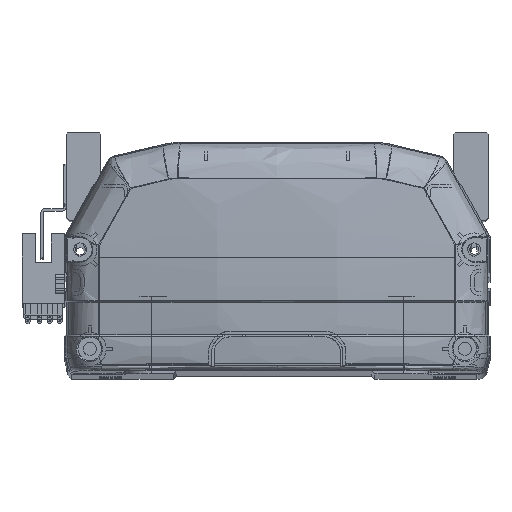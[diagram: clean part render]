
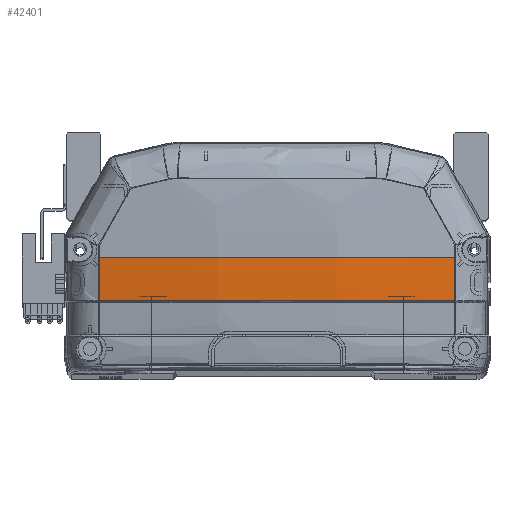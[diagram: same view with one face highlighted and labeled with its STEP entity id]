
A CAD part, top view. The second image highlights one B-rep face of the part: STEP entity #42401.
In plain terms, the highlighted free-form (B-spline) face has degree [3, 3] with [4, 4] control points.
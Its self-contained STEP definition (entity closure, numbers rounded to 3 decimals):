
#203 = CARTESIAN_POINT ( 'NONE',  ( -57.335, 22.148, -4.7 ) ) ;
#779 = CARTESIAN_POINT ( 'NONE',  ( -57.335, 31.38, -5.042 ) ) ;
#1471 = CARTESIAN_POINT ( 'NONE',  ( 38.071, 22.225, -7.566 ) ) ;
#3622 = CARTESIAN_POINT ( 'NONE',  ( 56.661, 22.225, -4.818 ) ) ;
#4745 = DIRECTION ( 'NONE',  ( -1., 0., 0. ) ) ;
#4997 = CIRCLE ( 'NONE', #26566, 6395.966 ) ;
#5168 = EDGE_CURVE ( 'NONE', #48721, #24520, #45884, .T. ) ;
#5310 = CARTESIAN_POINT ( 'NONE',  ( 57.335, 22.148, -4.7 ) ) ;
#6177 = CARTESIAN_POINT ( 'NONE',  ( 19.121, 22.225, -9.064 ) ) ;
#6620 = ORIENTED_EDGE ( 'NONE', *, *, #37466, .F. ) ;
#6955 = CARTESIAN_POINT ( 'NONE',  ( -56.661, 22.225, -4.818 ) ) ;
#8122 = CARTESIAN_POINT ( 'NONE',  ( 56.647, 35.969, -5.158 ) ) ;
#9629 = CARTESIAN_POINT ( 'NONE',  ( -57.335, 36., -5.042 ) ) ;
#10356 = ORIENTED_EDGE ( 'NONE', *, *, #32072, .F. ) ;
#10504 = CARTESIAN_POINT ( 'NONE',  ( 8.363, 22.225, -9.48 ) ) ;
#11513 = EDGE_CURVE ( 'NONE', #19233, #48721, #26948, .T. ) ;
#12133 = EDGE_CURVE ( 'NONE', #21516, #24520, #57272, .T. ) ;
#13234 = ORIENTED_EDGE ( 'NONE', *, *, #11513, .F. ) ;
#13571 = DIRECTION ( 'NONE',  ( 0., 0., -1. ) ) ;
#15911 = FACE_OUTER_BOUND ( 'NONE', #46724, .T. ) ;
#17331 = VERTEX_POINT ( 'NONE', #38288 ) ;
#18062 = CARTESIAN_POINT ( 'NONE',  ( 19.295, 31.274, -11.535 ) ) ;
#18436 = CARTESIAN_POINT ( 'NONE',  ( 19.295, 26.549, -11.419 ) ) ;
#18814 = CARTESIAN_POINT ( 'NONE',  ( 57.335, 31.38, -5.042 ) ) ;
#19233 = VERTEX_POINT ( 'NONE', #30654 ) ;
#20864 =( BOUNDED_SURFACE ( )  B_SPLINE_SURFACE ( 3, 3, ( 
 ( #5310, #49631, #18814, #50195 ),
 ( #44979, #18436, #18062, #49823 ),
 ( #45525, #49439, #36519, #22635 ),
 ( #203, #40673, #779, #9629 ) ),
 .UNSPECIFIED., .F., .F., .F. ) 
 B_SPLINE_SURFACE_WITH_KNOTS ( ( 4, 4 ),
 ( 4, 4 ),
 ( 0., 1. ),
 ( 0., 1. ),
 .UNSPECIFIED. ) 
 GEOMETRIC_REPRESENTATION_ITEM ( )  RATIONAL_B_SPLINE_SURFACE ( (
 ( 1., 1., 1., 1.),
 ( 0.99, 0.99, 0.99, 0.99),
 ( 0.99, 0.99, 0.99, 0.99),
 ( 1., 1., 1., 1.) ) ) 
 REPRESENTATION_ITEM ( '' )  SURFACE ( )  );
#21516 = VERTEX_POINT ( 'NONE', #55074 ) ;
#22635 = CARTESIAN_POINT ( 'NONE',  ( -19.295, 36., -11.535 ) ) ;
#23881 = CARTESIAN_POINT ( 'NONE',  ( 47.432, 22.225, -6.377 ) ) ;
#24520 = VERTEX_POINT ( 'NONE', #31483 ) ;
#24658 = CARTESIAN_POINT ( 'NONE',  ( 11.954, 22.225, -9.367 ) ) ;
#26409 = CARTESIAN_POINT ( 'NONE',  ( 56.647, 31.387, -5.158 ) ) ;
#26566 = AXIS2_PLACEMENT_3D ( 'NONE', #40282, #13571, #4745 ) ;
#26948 = CIRCLE ( 'NONE', #52102, 340.733 ) ;
#29152 = CARTESIAN_POINT ( 'NONE',  ( 4.761, 22.225, -9.537 ) ) ;
#29696 = DIRECTION ( 'NONE',  ( 0., 0., -1. ) ) ;
#29806 = ORIENTED_EDGE ( 'NONE', *, *, #5168, .F. ) ;
#30363 = CARTESIAN_POINT ( 'NONE',  ( -56.661, 22.225, -4.818 ) ) ;
#30654 = CARTESIAN_POINT ( 'NONE',  ( 56.647, 36., -5.158 ) ) ;
#31483 = CARTESIAN_POINT ( 'NONE',  ( -56.661, 22.225, -4.818 ) ) ;
#32072 = EDGE_CURVE ( 'NONE', #21516, #17331, #56709, .T. ) ;
#33272 = CARTESIAN_POINT ( 'NONE',  ( 56.661, 22.225, -4.818 ) ) ;
#34384 = CARTESIAN_POINT ( 'NONE',  ( 0., 36., 330.833 ) ) ;
#35007 = CARTESIAN_POINT ( 'NONE',  ( 56.652, 26.806, -5.044 ) ) ;
#36519 = CARTESIAN_POINT ( 'NONE',  ( -19.295, 31.274, -11.535 ) ) ;
#37389 = CARTESIAN_POINT ( 'NONE',  ( 23.877, 22.225, -8.763 ) ) ;
#37466 = EDGE_CURVE ( 'NONE', #17331, #19233, #4997, .T. ) ;
#37575 = CARTESIAN_POINT ( 'NONE',  ( 2.357, 22.225, -9.562 ) ) ;
#38288 = CARTESIAN_POINT ( 'NONE',  ( 56.647, 35.969, -5.158 ) ) ;
#38978 = CARTESIAN_POINT ( 'NONE',  ( -19.28, 22.225, -9.565 ) ) ;
#40282 = CARTESIAN_POINT ( 'NONE',  ( 6452.613, 35.969, -5.158 ) ) ;
#40673 = CARTESIAN_POINT ( 'NONE',  ( -57.335, 26.762, -4.928 ) ) ;
#42090 = CARTESIAN_POINT ( 'NONE',  ( 1.152, 22.225, -9.568 ) ) ;
#42401 = ADVANCED_FACE ( 'NONE', ( #15911 ), #20864, .T. ) ;
#43630 = DIRECTION ( 'NONE',  ( 0., 1., 0. ) ) ;
#44979 = CARTESIAN_POINT ( 'NONE',  ( 19.295, 21.828, -11.186 ) ) ;
#45525 = CARTESIAN_POINT ( 'NONE',  ( -19.295, 21.828, -11.186 ) ) ;
#45884 = B_SPLINE_CURVE_WITH_KNOTS ( 'NONE', 3,
 ( #53253, #57748, #48369, #30363 ),
 .UNSPECIFIED., .F., .F.,
 ( 4, 4 ),
 ( 0., 1. ),
 .UNSPECIFIED. ) ;
#46724 = EDGE_LOOP ( 'NONE', ( #13234, #6620, #10356, #54791, #29806 ) ) ;
#48369 = CARTESIAN_POINT ( 'NONE',  ( -56.652, 26.814, -5.045 ) ) ;
#48721 = VERTEX_POINT ( 'NONE', #51496 ) ;
#49439 = CARTESIAN_POINT ( 'NONE',  ( -19.295, 26.549, -11.419 ) ) ;
#49631 = CARTESIAN_POINT ( 'NONE',  ( 57.335, 26.762, -4.928 ) ) ;
#49823 = CARTESIAN_POINT ( 'NONE',  ( 19.295, 36., -11.535 ) ) ;
#50195 = CARTESIAN_POINT ( 'NONE',  ( 57.335, 36., -5.042 ) ) ;
#51496 = CARTESIAN_POINT ( 'NONE',  ( -56.647, 36., -5.158 ) ) ;
#52102 = AXIS2_PLACEMENT_3D ( 'NONE', #34384, #43630, #29696 ) ;
#53253 = CARTESIAN_POINT ( 'NONE',  ( -56.647, 36., -5.158 ) ) ;
#54791 = ORIENTED_EDGE ( 'NONE', *, *, #12133, .T. ) ;
#55074 = CARTESIAN_POINT ( 'NONE',  ( 56.661, 22.225, -4.818 ) ) ;
#56581 = CARTESIAN_POINT ( 'NONE',  ( -38.235, 22.225, -7.93 ) ) ;
#56709 = B_SPLINE_CURVE_WITH_KNOTS ( 'NONE', 3,
 ( #3622, #35007, #26409, #8122 ),
 .UNSPECIFIED., .F., .F.,
 ( 4, 4 ),
 ( 0., 1. ),
 .UNSPECIFIED. ) ;
#57272 = B_SPLINE_CURVE_WITH_KNOTS ( 'NONE', 3,
 ( #33272, #23881, #1471, #37389, #6177, #24658, #10504, #29152, #37575, #42090, #38978, #56581, #6955 ),
 .UNSPECIFIED., .F., .F.,
 ( 4, 2, 2, 1, 2, 2, 4 ),
 ( 0., 0.25, 0.375, 0.438, 0.469, 0.5, 1. ),
 .UNSPECIFIED. ) ;
#57748 = CARTESIAN_POINT ( 'NONE',  ( -56.647, 31.405, -5.158 ) ) ;
